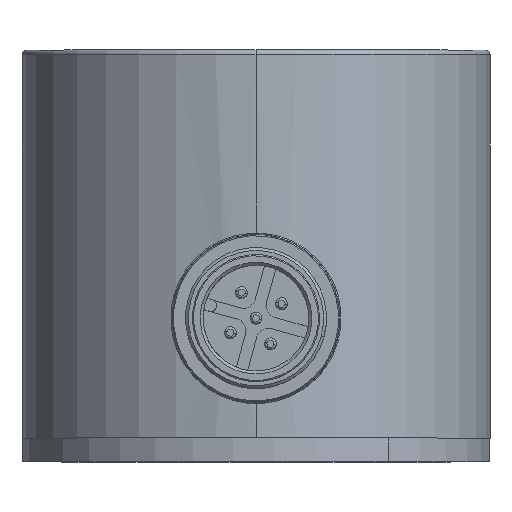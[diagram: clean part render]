
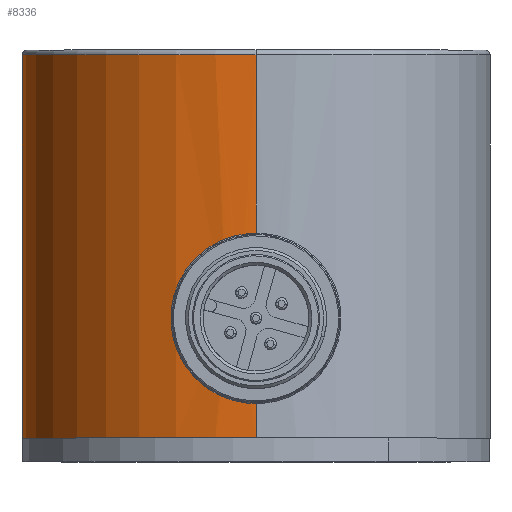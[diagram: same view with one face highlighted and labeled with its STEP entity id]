
A CAD part, top view. The second image highlights one B-rep face of the part: STEP entity #8336.
In plain terms, the highlighted cylindrical face has radius 19.9 mm (diameter 39.8 mm), a partial arc.
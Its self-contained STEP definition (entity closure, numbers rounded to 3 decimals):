
#2062 = EDGE_CURVE ( 'NONE', #2064, #2138, #6164, .T. ) ;
#2064 = VERTEX_POINT ( 'NONE', #6165 ) ;
#2074 = VERTEX_POINT ( 'NONE', #6139 ) ;
#2081 = VERTEX_POINT ( 'NONE', #6192 ) ;
#2138 = VERTEX_POINT ( 'NONE', #6322 ) ;
#6139 = CARTESIAN_POINT ( 'NONE',  ( 0., 32.6, -19.9 ) ) ;
#6144 = CARTESIAN_POINT ( 'NONE',  ( -2.55, 10., 19.736 ) ) ;
#6145 = CARTESIAN_POINT ( 'NONE',  ( -2.55, 9.663, 19.736 ) ) ;
#6146 = CARTESIAN_POINT ( 'NONE',  ( -2.482, 9.328, 19.745 ) ) ;
#6147 = CARTESIAN_POINT ( 'NONE',  ( -2.291, 8.868, 19.768 ) ) ;
#6148 = CARTESIAN_POINT ( 'NONE',  ( -2.212, 8.72, 19.777 ) ) ;
#6149 = CARTESIAN_POINT ( 'NONE',  ( -2.025, 8.442, 19.797 ) ) ;
#6150 = CARTESIAN_POINT ( 'NONE',  ( -1.92, 8.314, 19.808 ) ) ;
#6151 = CARTESIAN_POINT ( 'NONE',  ( -1.685, 8.079, 19.829 ) ) ;
#6152 = CARTESIAN_POINT ( 'NONE',  ( -1.554, 7.971, 19.84 ) ) ;
#6153 = CARTESIAN_POINT ( 'NONE',  ( -1.277, 7.787, 19.859 ) ) ;
#6154 = CARTESIAN_POINT ( 'NONE',  ( -1.131, 7.708, 19.868 ) ) ;
#6155 = CARTESIAN_POINT ( 'NONE',  ( -0.822, 7.58, 19.884 ) ) ;
#6156 = CARTESIAN_POINT ( 'NONE',  ( -0.66, 7.531, 19.89 ) ) ;
#6157 = CARTESIAN_POINT ( 'NONE',  ( -0.334, 7.467, 19.898 ) ) ;
#6158 = CARTESIAN_POINT ( 'NONE',  ( -0.168, 7.45, 19.9 ) ) ;
#6159 = CARTESIAN_POINT ( 'NONE',  ( 0., 7.45, 19.9 ) ) ;
#6164 = B_SPLINE_CURVE_WITH_KNOTS ( 'NONE', 3,
 ( #6159, #6158, #6157, #6156, #6155, #6154, #6153, #6152, #6151, #6150, #6149, #6148, #6147, #6146, #6145, #6144 ),
 .UNSPECIFIED., .F., .F.,
 ( 4, 2, 2, 2, 2, 2, 2, 4 ),
 ( 0.012, 0.012, 0.013, 0.013, 0.014, 0.014, 0.015, 0.016 ),
 .UNSPECIFIED. ) ;
#6165 = CARTESIAN_POINT ( 'NONE',  ( 0., 7.45, 19.9 ) ) ;
#6192 = CARTESIAN_POINT ( 'NONE',  ( 0., 32.6, 19.9 ) ) ;
#6322 = CARTESIAN_POINT ( 'NONE',  ( -2.55, 10., 19.736 ) ) ;
#6693 = DIRECTION ( 'NONE',  ( 0., 0., -1. ) ) ;
#6694 = DIRECTION ( 'NONE',  ( 0., -1., 0. ) ) ;
#6695 = CARTESIAN_POINT ( 'NONE',  ( 0., 33., 0. ) ) ;
#6696 = AXIS2_PLACEMENT_3D ( 'NONE', #6695, #6694, #6693 ) ;
#6697 = CYLINDRICAL_SURFACE ( 'NONE', #6696, 19.9 ) ;
#6699 = FACE_OUTER_BOUND ( 'NONE', #8337, .T. ) ;
#6700 = DIRECTION ( 'NONE',  ( 0., -1., 0. ) ) ;
#6701 = VECTOR ( 'NONE', #6700, 1000. ) ;
#6702 = CARTESIAN_POINT ( 'NONE',  ( 0., 33., -19.9 ) ) ;
#6703 = LINE ( 'NONE', #6702, #6701 ) ;
#6704 = CARTESIAN_POINT ( 'NONE',  ( 0., 0., -19.9 ) ) ;
#6782 = DIRECTION ( 'NONE',  ( 0., 0., 1. ) ) ;
#6783 = DIRECTION ( 'NONE',  ( 0., 1., 0. ) ) ;
#6784 = CARTESIAN_POINT ( 'NONE',  ( 0., 0., 0. ) ) ;
#6785 = AXIS2_PLACEMENT_3D ( 'NONE', #6784, #6783, #6782 ) ;
#6786 = CIRCLE ( 'NONE', #6785, 19.9 ) ;
#6787 = DIRECTION ( 'NONE',  ( 0., 0., 1. ) ) ;
#6788 = DIRECTION ( 'NONE',  ( 0., -1., 0. ) ) ;
#6789 = CARTESIAN_POINT ( 'NONE',  ( 0., 32.6, 0. ) ) ;
#6790 = AXIS2_PLACEMENT_3D ( 'NONE', #6789, #6788, #6787 ) ;
#6791 = CIRCLE ( 'NONE', #6790, 19.9 ) ;
#6819 = CARTESIAN_POINT ( 'NONE',  ( 0., 12.55, 19.9 ) ) ;
#6820 = DIRECTION ( 'NONE',  ( 0., -1., 0. ) ) ;
#6821 = VECTOR ( 'NONE', #6820, 1000. ) ;
#6822 = CARTESIAN_POINT ( 'NONE',  ( 0., 33., 19.9 ) ) ;
#6823 = LINE ( 'NONE', #6822, #6821 ) ;
#6824 = CARTESIAN_POINT ( 'NONE',  ( 0., 12.55, 19.9 ) ) ;
#6825 = CARTESIAN_POINT ( 'NONE',  ( -0.167, 12.55, 19.9 ) ) ;
#6826 = CARTESIAN_POINT ( 'NONE',  ( -0.332, 12.534, 19.898 ) ) ;
#6827 = CARTESIAN_POINT ( 'NONE',  ( -0.662, 12.468, 19.89 ) ) ;
#6828 = CARTESIAN_POINT ( 'NONE',  ( -0.823, 12.419, 19.884 ) ) ;
#6829 = CARTESIAN_POINT ( 'NONE',  ( -1.129, 12.292, 19.869 ) ) ;
#6830 = CARTESIAN_POINT ( 'NONE',  ( -1.278, 12.213, 19.859 ) ) ;
#6831 = CARTESIAN_POINT ( 'NONE',  ( -1.557, 12.027, 19.84 ) ) ;
#6832 = CARTESIAN_POINT ( 'NONE',  ( -1.685, 11.921, 19.829 ) ) ;
#6833 = CARTESIAN_POINT ( 'NONE',  ( -1.92, 11.686, 19.808 ) ) ;
#6834 = CARTESIAN_POINT ( 'NONE',  ( -2.028, 11.555, 19.797 ) ) ;
#6835 = CARTESIAN_POINT ( 'NONE',  ( -2.213, 11.278, 19.777 ) ) ;
#6836 = CARTESIAN_POINT ( 'NONE',  ( -2.291, 11.132, 19.768 ) ) ;
#6837 = CARTESIAN_POINT ( 'NONE',  ( -2.419, 10.823, 19.752 ) ) ;
#6838 = CARTESIAN_POINT ( 'NONE',  ( -2.468, 10.661, 19.746 ) ) ;
#6839 = CARTESIAN_POINT ( 'NONE',  ( -2.533, 10.335, 19.738 ) ) ;
#6840 = CARTESIAN_POINT ( 'NONE',  ( -2.55, 10.169, 19.736 ) ) ;
#6841 = CARTESIAN_POINT ( 'NONE',  ( -2.55, 10., 19.736 ) ) ;
#6847 = B_SPLINE_CURVE_WITH_KNOTS ( 'NONE', 3,
 ( #6841, #6840, #6839, #6838, #6837, #6836, #6835, #6834, #6833, #6832, #6831, #6830, #6829, #6828, #6827, #6826, #6825, #6824 ),
 .UNSPECIFIED., .F., .F.,
 ( 4, 2, 2, 2, 2, 2, 2, 2, 4 ),
 ( 0., 0., 0.001, 0.001, 0.002, 0.002, 0.003, 0.003, 0.004 ),
 .UNSPECIFIED. ) ;
#6881 = CARTESIAN_POINT ( 'NONE',  ( 0., 0., 19.9 ) ) ;
#6882 = DIRECTION ( 'NONE',  ( 0., -1., 0. ) ) ;
#6883 = VECTOR ( 'NONE', #6882, 1000. ) ;
#6884 = CARTESIAN_POINT ( 'NONE',  ( 0., 33., 19.9 ) ) ;
#6885 = LINE ( 'NONE', #6884, #6883 ) ;
#8333 = VERTEX_POINT ( 'NONE', #6704 ) ;
#8335 = EDGE_CURVE ( 'NONE', #2074, #8333, #6703, .T. ) ;
#8336 = ADVANCED_FACE ( 'NONE', ( #6699 ), #6697, .T. ) ;
#8337 = EDGE_LOOP ( 'NONE', ( #8388, #8389, #8391, #8392, #8394, #8395, #8396 ) ) ;
#8388 = ORIENTED_EDGE ( 'NONE', *, *, #8399, .F. ) ;
#8389 = ORIENTED_EDGE ( 'NONE', *, *, #8390, .T. ) ;
#8390 = EDGE_CURVE ( 'NONE', #2081, #2074, #6791, .T. ) ;
#8391 = ORIENTED_EDGE ( 'NONE', *, *, #8335, .T. ) ;
#8392 = ORIENTED_EDGE ( 'NONE', *, *, #8393, .T. ) ;
#8393 = EDGE_CURVE ( 'NONE', #8333, #8406, #6786, .T. ) ;
#8394 = ORIENTED_EDGE ( 'NONE', *, *, #8405, .F. ) ;
#8395 = ORIENTED_EDGE ( 'NONE', *, *, #2062, .T. ) ;
#8396 = ORIENTED_EDGE ( 'NONE', *, *, #8397, .T. ) ;
#8397 = EDGE_CURVE ( 'NONE', #2138, #8400, #6847, .T. ) ;
#8399 = EDGE_CURVE ( 'NONE', #2081, #8400, #6823, .T. ) ;
#8400 = VERTEX_POINT ( 'NONE', #6819 ) ;
#8405 = EDGE_CURVE ( 'NONE', #2064, #8406, #6885, .T. ) ;
#8406 = VERTEX_POINT ( 'NONE', #6881 ) ;
